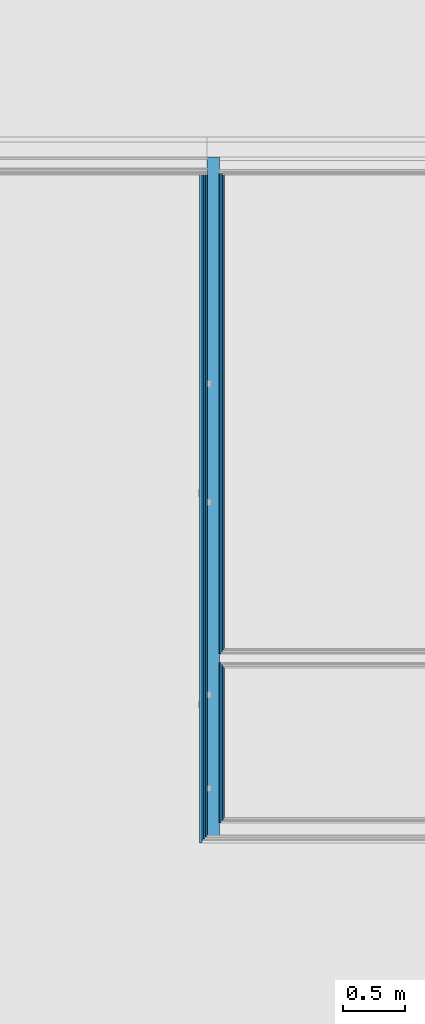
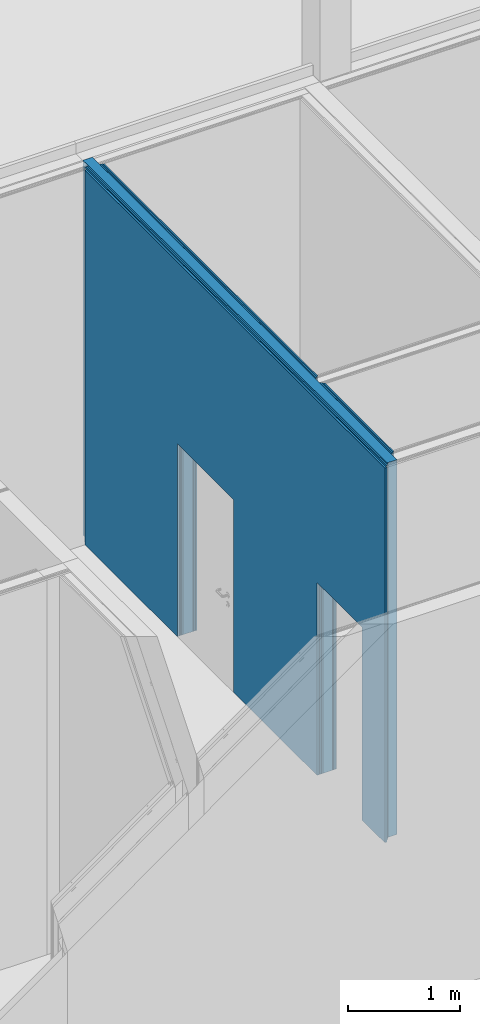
# One storey, part 125 of 260: 8 building element parts, 2 openings, 1 element without a shape of its own.
"""IFC2X3 building model written with IfcOpenShell, lengths in millimetres."""

from ifc_helpers import new_model, entity, si_unit, converted_unit, derived_unit, money_unit, direction, frame, origin_with_axes, place, context, subcontext, project, spatial, faceted_brep, material, type_object, element, aggregate, save


model = new_model("IFC2X3")

# Units and contexts
model_context = context("Model", 3, precision=0.01, world=origin_with_axes(), true_north=direction((0.0, 1.0)))
body_context = subcontext(model_context, "Body", "Model", "MODEL_VIEW")
ifc_project = project(units=[si_unit("LENGTHUNIT", "METRE", prefix="MILLI"), si_unit("AREAUNIT", "SQUARE_METRE"), si_unit("VOLUMEUNIT", "CUBIC_METRE"), converted_unit("PLANEANGLEUNIT", "DEGREE", entity("IfcPlaneAngleMeasure", 0.0174532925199), si_unit("PLANEANGLEUNIT", "RADIAN"), dimensions=[0, 0, 0, 0, 0, 0, 0]), money_unit("EUR"), converted_unit("TIMEUNIT", "Year", entity("IfcTimeMeasure", 31556926.0), si_unit("TIMEUNIT", "SECOND"), dimensions=[0, 0, 1, 0, 0, 0, 0]), si_unit("MASSUNIT", "GRAM", prefix="KILO"), si_unit("THERMODYNAMICTEMPERATUREUNIT", "DEGREE_CELSIUS"), si_unit("LUMINOUSINTENSITYUNIT", "LUMEN"), si_unit("ENERGYUNIT", "JOULE", prefix="MEGA"), derived_unit("THERMALCONDUCTANCEUNIT", [(si_unit("POWERUNIT", "WATT"), 1), (si_unit("LENGTHUNIT", "METRE"), -1), (si_unit("THERMODYNAMICTEMPERATUREUNIT", "KELVIN"), -1)]), derived_unit("SPECIFICHEATCAPACITYUNIT", [(si_unit("ENERGYUNIT", "JOULE"), 1), (si_unit("MASSUNIT", "GRAM", prefix="KILO"), -1), (si_unit("THERMODYNAMICTEMPERATUREUNIT", "KELVIN"), -1)]), derived_unit("MASSDENSITYUNIT", [(si_unit("MASSUNIT", "GRAM", prefix="KILO"), 1), (si_unit("VOLUMEUNIT", "CUBIC_METRE"), -1)])], contexts=[model_context])

# Site, building, storey
site_placement = place(None, origin_with_axes())
site = spatial("IfcSite", under=ifc_project, at=site_placement, Name="Kolde pst 67a", CompositionType="ELEMENT")
building_placement = place(site_placement, origin_with_axes())
building = spatial("IfcBuilding", under=site, at=building_placement, Name="Riigigümnaasium", CompositionType="ELEMENT")
storey_placement = place(building_placement, origin_with_axes())
storey = spatial("IfcBuildingStorey", under=building, at=storey_placement, Name="1. korrus", CompositionType="ELEMENT", Elevation=0.0)

# Wall, openings, building element parts
wall_type = type_object("IfcWallType", Name="SS-PK-10/2_vill100+dold+plaat 200", PredefinedType="NOTDEFINED")
wall_placement = place(storey_placement, frame((18627.4872525, 67089.9971514, 0.0), z_axis=(0.0, 0.0, 1.0), x_axis=(0.0, -1.0, 0.0)))
wall = element("IfcWall", 1, at=wall_placement, inside=storey, type_object=wall_type, Name="Sisesein")
opening_1_placement = place(wall_placement, frame((4680.9391817, 0.0, 0.0), z_axis=(0.0, 0.0, 1.0), x_axis=(1.0, 0.0, 0.0)))
element("IfcOpeningElement", 2, at=opening_1_placement, cuts=wall, Name="Siseuks", context=body_context, shape_type="Brep", body=[
    faceted_brep([(400.0, -400.0, 2100.0), (400.0, -400.0, 0.0), (400.0, 200.0, 0.0), (400.0, 200.0, 2100.0), (-400.0, -400.0, 2100.0), (-400.0, -400.0, 0.0), (-400.0, 200.0, 0.0), (-400.0, 200.0, 2100.0)], [[[0, 1, 2, 3]], [[0, 4, 5, 1]], [[1, 5, 6, 2]], [[3, 2, 6, 7]], [[4, 0, 3, 7]], [[5, 4, 7, 6]]]),
])
opening_2_placement = place(wall_placement, frame((2289.98301452, 0.0, 0.0), z_axis=(0.0, 0.0, 1.0), x_axis=(1.0, 0.0, 0.0)))
element("IfcOpeningElement", 3, at=opening_2_placement, cuts=wall, Name="Siseuks", context=body_context, shape_type="Brep", body=[
    faceted_brep([(-500.0, 200.0, 2100.0), (-500.0, 200.0, 0.0), (-500.0, -400.0, 0.0), (-500.0, -400.0, 2100.0), (500.0, 200.0, 2100.0), (500.0, 200.0, 0.0), (500.0, -400.0, 0.0), (500.0, -400.0, 2100.0)], [[[0, 1, 2, 3]], [[0, 4, 5, 1]], [[1, 5, 6, 2]], [[3, 2, 6, 7]], [[4, 0, 3, 7]], [[5, 4, 7, 6]]]),
])
ifc_material_1 = material(Name="_VIIMISTLUSKIHT - viimistlus vastavalt SA osale")
building_element_part_1_placement = place(wall_placement, origin_with_axes())
building_element_part_1 = element("IfcBuildingElementPart", 4, at=building_element_part_1_placement, material=ifc_material_1, Name="_VIIMISTLUSKIHT - viimistlus vastavalt SA osale", context=body_context, shape_type="Brep", body=[
    faceted_brep([(2789.98301452, 0.0, 0.0), (2789.98301452, 0.0, 2100.0), (1789.98301452, 0.0, 2100.0), (1789.98301452, 0.0, 0.0), (140.0, 0.0, 0.0), (140.0, 0.0, 4080.0), (3950.9391817, 0.0, 4080.0), (3950.9391817, 0.0, 0.0), (2789.98301452, -15.0, 0.0), (2789.98301452, -15.0, 2100.0), (1789.98301452, -15.0, 2100.0), (1789.98301452, -15.0, 0.0), (140.0, -15.0, 0.0), (140.0, -15.0, 4080.0), (3950.9391817, -15.0, 4080.0), (3950.9391817, -15.0, 0.0)], [[[0, 1, 2, 3, 4, 5, 6, 7]], [[1, 0, 8, 9]], [[2, 1, 9, 10]], [[3, 2, 10, 11]], [[3, 11, 12, 4]], [[5, 4, 12, 13]], [[5, 13, 14, 6]], [[14, 15, 7, 6]], [[8, 0, 7, 15]], [[9, 8, 15, 14, 13, 12, 11, 10]]]),
    faceted_brep([(5080.9391817, 0.0, 0.0), (5080.9391817, 0.0, 2100.0), (4280.9391817, 0.0, 2100.0), (4280.9391817, 0.0, 0.0), (4075.9391817, 0.0, 0.0), (4075.9391817, 0.0, 4080.0), (5306.99282119, 0.0, 4080.0), (5306.99282119, 0.0, 0.0), (5080.9391817, -15.0, 0.0), (5080.9391817, -15.0, 2100.0), (4280.9391817, -15.0, 2100.0), (4280.9391817, -15.0, 0.0), (4075.9391817, -15.0, 0.0), (4075.9391817, -15.0, 4080.0), (5306.99282119, -15.0, 4080.0), (5306.99282119, -15.0, 0.0)], [[[0, 1, 2, 3, 4, 5, 6, 7]], [[1, 0, 8, 9]], [[2, 1, 9, 10]], [[3, 2, 10, 11]], [[3, 11, 12, 4]], [[5, 4, 12, 13]], [[5, 13, 14, 6]], [[14, 15, 7, 6]], [[8, 0, 7, 15]], [[9, 8, 15, 14, 13, 12, 11, 10]]]),
])
ifc_material_2 = material(Name="_PLAATMATERJAL - kipsplaat veekindel")
building_element_part_2_placement = place(wall_placement, origin_with_axes())
building_element_part_2 = element("IfcBuildingElementPart", 5, at=building_element_part_2_placement, material=ifc_material_2, Name="_PLAATMATERJAL - kipsplaat veekindel", context=body_context, shape_type="Brep", body=[
    faceted_brep([(2789.98301452, -15.0, 0.0), (2789.98301452, -15.0, 2100.0), (1789.98301452, -15.0, 2100.0), (1789.98301452, -15.0, 0.0), (130.0, -15.0, 0.0), (130.0, -15.0, 4080.0), (3963.4391817, -15.0, 4080.0), (3963.4391817, -15.0, 0.0), (2789.98301452, -27.5, 0.0), (2789.98301452, -27.5, 2100.0), (1789.98301452, -27.5, 2100.0), (1789.98301452, -27.5, 0.0), (130.0, -27.5, 0.0), (130.0, -27.5, 4080.0), (3963.4391817, -27.5, 4080.0), (3963.4391817, -27.5, 0.0)], [[[0, 1, 2, 3, 4, 5, 6, 7]], [[1, 0, 8, 9]], [[2, 1, 9, 10]], [[3, 2, 10, 11]], [[3, 11, 12, 4]], [[5, 4, 12, 13]], [[5, 13, 14, 6]], [[14, 15, 7, 6]], [[8, 0, 7, 15]], [[9, 8, 15, 14, 13, 12, 11, 10]]]),
    faceted_brep([(5080.9391817, -15.0, 0.0), (5080.9391817, -15.0, 2100.0), (4280.9391817, -15.0, 2100.0), (4280.9391817, -15.0, 0.0), (4063.4391817, -15.0, 0.0), (4063.4391817, -15.0, 4080.0), (5319.49282119, -15.0, 4080.0), (5319.49282119, -15.0, 0.0), (5080.9391817, -27.5, 0.0), (5080.9391817, -27.5, 2100.0), (4280.9391817, -27.5, 2100.0), (4280.9391817, -27.5, 0.0), (4063.4391817, -27.5, 0.0), (4063.4391817, -27.5, 4080.0), (5319.49282119, -27.5, 4080.0), (5319.49282119, -27.5, 0.0)], [[[0, 1, 2, 3, 4, 5, 6, 7]], [[1, 0, 8, 9]], [[2, 1, 9, 10]], [[3, 2, 10, 11]], [[3, 11, 12, 4]], [[5, 4, 12, 13]], [[5, 13, 14, 6]], [[14, 15, 7, 6]], [[8, 0, 7, 15]], [[9, 8, 15, 14, 13, 12, 11, 10]]]),
])
building_element_part_3_placement = place(wall_placement, origin_with_axes())
building_element_part_3 = element("IfcBuildingElementPart", 6, at=building_element_part_3_placement, material=ifc_material_2, Name="_PLAATMATERJAL - kipsplaat veekindel", context=body_context, shape_type="Brep", body=[
    faceted_brep([(2789.98301452, -27.5, 0.0), (2789.98301452, -27.5, 2100.0), (1789.98301452, -27.5, 2100.0), (1789.98301452, -27.5, 0.0), (130.0, -27.5, 0.0), (130.0, -27.5, 4080.0), (3975.9391817, -27.5, 4080.0), (3975.9391817, -27.5, 0.0), (2789.98301452, -40.0, 0.0), (2789.98301452, -40.0, 2100.0), (1789.98301452, -40.0, 2100.0), (1789.98301452, -40.0, 0.0), (130.0, -40.0, 0.0), (130.0, -40.0, 4080.0), (3975.9391817, -40.0, 4080.0), (3975.9391817, -40.0, 0.0)], [[[0, 1, 2, 3, 4, 5, 6, 7]], [[1, 0, 8, 9]], [[2, 1, 9, 10]], [[3, 2, 10, 11]], [[3, 11, 12, 4]], [[5, 4, 12, 13]], [[5, 13, 14, 6]], [[14, 15, 7, 6]], [[8, 0, 7, 15]], [[9, 8, 15, 14, 13, 12, 11, 10]]]),
    faceted_brep([(5080.9391817, -27.5, 0.0), (5080.9391817, -27.5, 2100.0), (4280.9391817, -27.5, 2100.0), (4280.9391817, -27.5, 0.0), (4050.9391817, -27.5, 0.0), (4050.9391817, -27.5, 4080.0), (5331.99282119, -27.5, 4080.0), (5331.99282119, -27.5, 0.0), (5080.9391817, -40.0, 0.0), (5080.9391817, -40.0, 2100.0), (4280.9391817, -40.0, 2100.0), (4280.9391817, -40.0, 0.0), (4050.9391817, -40.0, 0.0), (4050.9391817, -40.0, 4080.0), (5331.99282119, -40.0, 4080.0), (5331.99282119, -40.0, 0.0)], [[[0, 1, 2, 3, 4, 5, 6, 7]], [[1, 0, 8, 9]], [[2, 1, 9, 10]], [[3, 2, 10, 11]], [[3, 11, 12, 4]], [[5, 4, 12, 13]], [[5, 13, 14, 6]], [[14, 15, 7, 6]], [[8, 0, 7, 15]], [[9, 8, 15, 14, 13, 12, 11, 10]]]),
])
ifc_material_3 = material(Name="_KARKASS - puitpruss 100x50mm vertikaalne, samm 600mm, vahel mineraalvill, helineeldetegur αw = 1.0, ISOVER ACOUSTIC 100mm või samaväärne")
building_element_part_4_placement = place(wall_placement, origin_with_axes())
building_element_part_4 = element("IfcBuildingElementPart", 7, at=building_element_part_4_placement, material=ifc_material_3, Name="_KARKASS - puitpruss 100x50mm vertikaalne, samm 600mm, vahel mineraalvill, helineeldetegur αw = 1.0, ISOVER ACOUSTIC 100mm või samaväärne", context=body_context, shape_type="Brep", body=[
    faceted_brep([(2789.98301452, -40.0, 0.0), (2789.98301452, -40.0, 2100.0), (1789.98301452, -40.0, 2100.0), (1789.98301452, -40.0, 0.0), (0.0, -40.0, 0.0), (0.0, -40.0, 4080.0), (5431.99282119, -40.0, 4080.0), (5431.99282119, -40.0, 0.0), (5080.9391817, -40.0, 0.0), (5080.9391817, -40.0, 2100.0), (4280.9391817, -40.0, 2100.0), (4280.9391817, -40.0, 0.0), (2789.98301452, -140.0, 0.0), (2789.98301452, -140.0, 2100.0), (1789.98301452, -140.0, 2100.0), (1789.98301452, -140.0, 0.0), (0.0, -140.0, 0.0), (0.0, -140.0, 4080.0), (5431.99282119, -140.0, 4080.0), (5431.99282119, -140.0, 0.0), (5080.9391817, -140.0, 0.0), (5080.9391817, -140.0, 2100.0), (4280.9391817, -140.0, 2100.0), (4280.9391817, -140.0, 0.0)], [[[0, 1, 2, 3, 4, 5, 6, 7, 8, 9, 10, 11]], [[1, 0, 12, 13]], [[2, 1, 13, 14]], [[3, 2, 14, 15]], [[3, 15, 16, 4]], [[4, 16, 17, 5]], [[17, 18, 6, 5]], [[19, 7, 6, 18]], [[8, 7, 19, 20]], [[8, 20, 21, 9]], [[9, 21, 22, 10]], [[10, 22, 23, 11]], [[12, 0, 11, 23]], [[13, 12, 23, 22, 21, 20, 19, 18, 17, 16, 15, 14]]]),
])
ifc_material_4 = material(Name="_PLAATMATERJAL - tuletõkkekipsplaat, Knauf Red GKF või samaväärne")
building_element_part_5_placement = place(wall_placement, origin_with_axes())
building_element_part_5 = element("IfcBuildingElementPart", 8, at=building_element_part_5_placement, material=ifc_material_4, Name="_PLAATMATERJAL - tuletõkkekipsplaat, Knauf Red GKF või samaväärne", context=body_context, shape_type="Brep", body=[
    faceted_brep([(2789.98301452, -140.0, 0.0), (2789.98301452, -140.0, 2100.0), (1789.98301452, -140.0, 2100.0), (1789.98301452, -140.0, 0.0), (100.0, -140.0, 0.0), (100.0, -140.0, 4080.0), (5446.99282119, -140.0, 4080.0), (5446.99282119, -140.0, 0.0), (5080.9391817, -140.0, 0.0), (5080.9391817, -140.0, 2100.0), (4280.9391817, -140.0, 2100.0), (4280.9391817, -140.0, 0.0), (2789.98301452, -155.0, 0.0), (2789.98301452, -155.0, 2100.0), (1789.98301452, -155.0, 2100.0), (1789.98301452, -155.0, 0.0), (100.0, -155.0, 0.0), (100.0, -155.0, 4080.0), (5446.99282119, -155.0, 4080.0), (5446.99282119, -155.0, 0.0), (5080.9391817, -155.0, 0.0), (5080.9391817, -155.0, 2100.0), (4280.9391817, -155.0, 2100.0), (4280.9391817, -155.0, 0.0)], [[[0, 1, 2, 3, 4, 5, 6, 7, 8, 9, 10, 11]], [[1, 0, 12, 13]], [[2, 1, 13, 14]], [[3, 2, 14, 15]], [[3, 15, 16, 4]], [[4, 16, 17, 5]], [[17, 18, 6, 5]], [[19, 7, 6, 18]], [[8, 7, 19, 20]], [[8, 20, 21, 9]], [[9, 21, 22, 10]], [[10, 22, 23, 11]], [[12, 0, 11, 23]], [[13, 12, 23, 22, 21, 20, 19, 18, 17, 16, 15, 14]]]),
])
building_element_part_6_placement = place(wall_placement, origin_with_axes())
building_element_part_6 = element("IfcBuildingElementPart", 9, at=building_element_part_6_placement, material=ifc_material_4, Name="_PLAATMATERJAL - tuletõkkekipsplaat, Knauf Red GKF või samaväärne", context=body_context, shape_type="Brep", body=[
    faceted_brep([(2789.98301452, -155.0, 0.0), (2789.98301452, -155.0, 2100.0), (1789.98301452, -155.0, 2100.0), (1789.98301452, -155.0, 0.0), (100.0, -155.0, 0.0), (100.0, -155.0, 4080.0), (5461.99282119, -155.0, 4080.0), (5461.99282119, -155.0, 0.0), (5080.9391817, -155.0, 0.0), (5080.9391817, -155.0, 2100.0), (4280.9391817, -155.0, 2100.0), (4280.9391817, -155.0, 0.0), (2789.98301452, -170.0, 0.0), (2789.98301452, -170.0, 2100.0), (1789.98301452, -170.0, 2100.0), (1789.98301452, -170.0, 0.0), (100.0, -170.0, 0.0), (100.0, -170.0, 4080.0), (5461.99282119, -170.0, 4080.0), (5461.99282119, -170.0, 0.0), (5080.9391817, -170.0, 0.0), (5080.9391817, -170.0, 2100.0), (4280.9391817, -170.0, 2100.0), (4280.9391817, -170.0, 0.0)], [[[0, 1, 2, 3, 4, 5, 6, 7, 8, 9, 10, 11]], [[1, 0, 12, 13]], [[2, 1, 13, 14]], [[3, 2, 14, 15]], [[3, 15, 16, 4]], [[4, 16, 17, 5]], [[17, 18, 6, 5]], [[19, 7, 6, 18]], [[8, 7, 19, 20]], [[8, 20, 21, 9]], [[9, 21, 22, 10]], [[10, 22, 23, 11]], [[12, 0, 11, 23]], [[13, 12, 23, 22, 21, 20, 19, 18, 17, 16, 15, 14]]]),
])
ifc_material_5 = material(Name="_KARKASS - eriprofiilkinnitus vastavalt sisemisele plaatviimistlusele")
building_element_part_7_placement = place(wall_placement, origin_with_axes())
building_element_part_7 = element("IfcBuildingElementPart", 10, at=building_element_part_7_placement, material=ifc_material_5, Name="_KARKASS - eriprofiilkinnitus vastavalt sisemisele plaatviimistlusele", context=body_context, shape_type="Brep", body=[
    faceted_brep([(2789.98301452, -170.0, 0.0), (2789.98301452, -170.0, 2100.0), (1789.98301452, -170.0, 2100.0), (1789.98301452, -170.0, 0.0), (100.0, -170.0, 0.0), (100.0, -170.0, 4080.0), (5471.99282119, -170.0, 4080.0), (5471.99282119, -170.0, 0.0), (5080.9391817, -170.0, 0.0), (5080.9391817, -170.0, 2100.0), (4280.9391817, -170.0, 2100.0), (4280.9391817, -170.0, 0.0), (2789.98301452, -180.0, 0.0), (2789.98301452, -180.0, 2100.0), (1789.98301452, -180.0, 2100.0), (1789.98301452, -180.0, 0.0), (100.0, -180.0, 0.0), (100.0, -180.0, 4080.0), (5471.99282119, -180.0, 4080.0), (5471.99282119, -180.0, 0.0), (5080.9391817, -180.0, 0.0), (5080.9391817, -180.0, 2100.0), (4280.9391817, -180.0, 2100.0), (4280.9391817, -180.0, 0.0)], [[[0, 1, 2, 3, 4, 5, 6, 7, 8, 9, 10, 11]], [[1, 0, 12, 13]], [[2, 1, 13, 14]], [[3, 2, 14, 15]], [[3, 15, 16, 4]], [[4, 16, 17, 5]], [[17, 18, 6, 5]], [[19, 7, 6, 18]], [[8, 7, 19, 20]], [[8, 20, 21, 9]], [[9, 21, 22, 10]], [[10, 22, 23, 11]], [[12, 0, 11, 23]], [[13, 12, 23, 22, 21, 20, 19, 18, 17, 16, 15, 14]]]),
])
building_element_part_8_placement = place(wall_placement, origin_with_axes())
building_element_part_8 = element("IfcBuildingElementPart", 11, at=building_element_part_8_placement, material=ifc_material_1, Name="_VIIMISTLUSKIHT - viimistlus vastavalt SA osale", context=body_context, shape_type="Brep", body=[
    faceted_brep([(2789.98301452, -180.0, 0.0), (2789.98301452, -180.0, 2100.0), (1789.98301452, -180.0, 2100.0), (1789.98301452, -180.0, 0.0), (140.0, -180.0, 0.0), (140.0, -180.0, 4080.0), (5491.99282119, -180.0, 4080.0), (5491.99282119, -180.0, 0.0), (5080.9391817, -180.0, 0.0), (5080.9391817, -180.0, 2100.0), (4280.9391817, -180.0, 2100.0), (4280.9391817, -180.0, 0.0), (2789.98301452, -200.0, 0.0), (2789.98301452, -200.0, 2100.0), (1789.98301452, -200.0, 2100.0), (1789.98301452, -200.0, 0.0), (140.0, -200.0, 0.0), (140.0, -200.0, 4080.0), (5491.99282119, -200.0, 4080.0), (5491.99282119, -200.0, 0.0), (5080.9391817, -200.0, 0.0), (5080.9391817, -200.0, 2100.0), (4280.9391817, -200.0, 2100.0), (4280.9391817, -200.0, 0.0)], [[[0, 1, 2, 3, 4, 5, 6, 7, 8, 9, 10, 11]], [[1, 0, 12, 13]], [[2, 1, 13, 14]], [[3, 2, 14, 15]], [[3, 15, 16, 4]], [[4, 16, 17, 5]], [[17, 18, 6, 5]], [[19, 7, 6, 18]], [[8, 7, 19, 20]], [[8, 20, 21, 9]], [[9, 21, 22, 10]], [[10, 22, 23, 11]], [[12, 0, 11, 23]], [[13, 12, 23, 22, 21, 20, 19, 18, 17, 16, 15, 14]]]),
])
aggregate(wall, [building_element_part_1, building_element_part_2, building_element_part_3, building_element_part_4, building_element_part_5, building_element_part_6, building_element_part_7, building_element_part_8])

save(model, "model.ifc")
